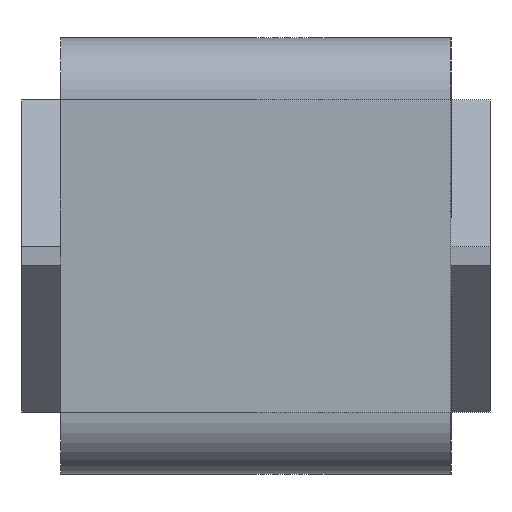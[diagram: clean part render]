
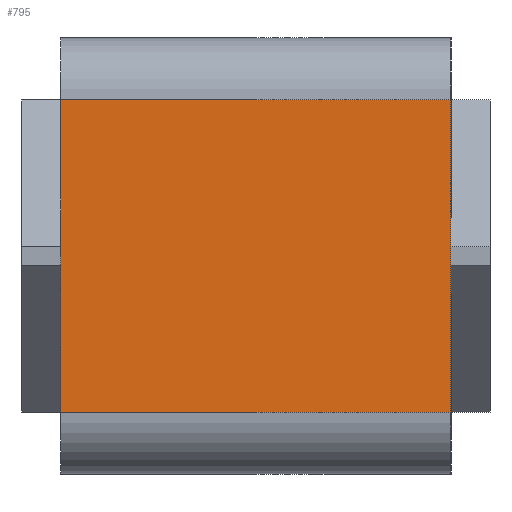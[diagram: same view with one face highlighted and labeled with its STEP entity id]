
A CAD part, left-side view. The second image highlights one B-rep face of the part: STEP entity #795.
In plain terms, the highlighted planar face has unit normal (-1, 0, 0).
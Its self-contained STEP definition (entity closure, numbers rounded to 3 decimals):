
#737=CARTESIAN_POINT('',(-26.75,25.0,10.0));
#738=VERTEX_POINT('',#737);
#746=CARTESIAN_POINT('',(-26.75,0.,10.0));
#747=VERTEX_POINT('',#746);
#748=CARTESIAN_POINT('',(-26.75,0.,10.0));
#749=DIRECTION('',(0.0,1.0,0.0));
#750=VECTOR('',#749,25.0);
#751=LINE('',#748,#750);
#752=EDGE_CURVE('',#747,#738,#751,.T.);
#765=CARTESIAN_POINT('',(-26.75,0.,10.0));
#766=DIRECTION('',(-1.0,0.0,0.0));
#767=DIRECTION('',(0.0,0.0,1.0));
#768=AXIS2_PLACEMENT_3D('',#765,#766,#767);
#769=PLANE('',#768);
#770=CARTESIAN_POINT('',(-26.75,25.0,-10.0));
#771=VERTEX_POINT('',#770);
#772=CARTESIAN_POINT('',(-26.75,25.0,10.0));
#773=DIRECTION('',(0.0,0.0,-1.0));
#774=VECTOR('',#773,20.0);
#775=LINE('',#772,#774);
#776=EDGE_CURVE('',#738,#771,#775,.T.);
#777=ORIENTED_EDGE('',*,*,#776,.T.);
#778=CARTESIAN_POINT('',(-26.75,0.,-10.0));
#779=VERTEX_POINT('',#778);
#780=CARTESIAN_POINT('',(-26.75,0.,-10.0));
#781=DIRECTION('',(0.0,1.0,0.0));
#782=VECTOR('',#781,25.0);
#783=LINE('',#780,#782);
#784=EDGE_CURVE('',#779,#771,#783,.T.);
#785=ORIENTED_EDGE('',*,*,#784,.F.);
#786=CARTESIAN_POINT('',(-26.75,0.,-10.0));
#787=DIRECTION('',(0.0,0.0,1.0));
#788=VECTOR('',#787,20.0);
#789=LINE('',#786,#788);
#790=EDGE_CURVE('',#779,#747,#789,.T.);
#791=ORIENTED_EDGE('',*,*,#790,.T.);
#792=ORIENTED_EDGE('',*,*,#752,.T.);
#793=EDGE_LOOP('',(#777,#785,#791,#792));
#794=FACE_OUTER_BOUND('',#793,.T.);
#795=ADVANCED_FACE('',(#794),#769,.T.);
